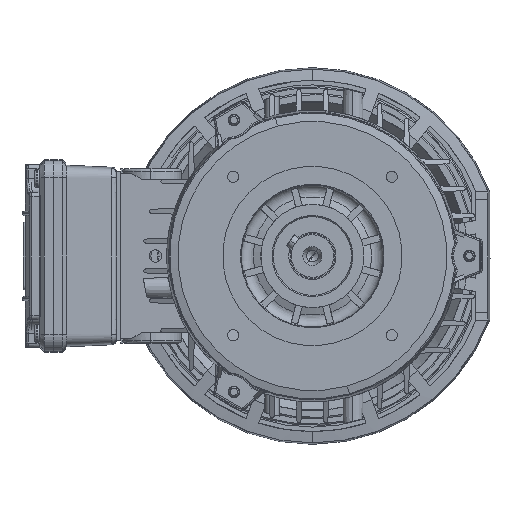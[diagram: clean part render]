
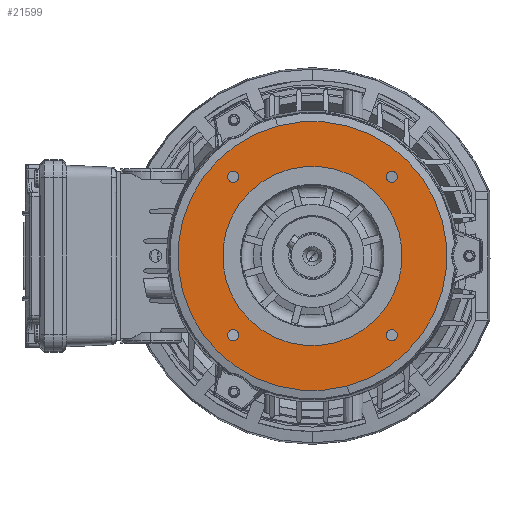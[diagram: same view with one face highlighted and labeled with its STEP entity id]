
A CAD part, left-side view. The second image highlights one B-rep face of the part: STEP entity #21599.
In plain terms, the highlighted planar face has unit normal (-1, 0, 0) as drawn and (0, 1, 0) by its records, which use the part's own axes.
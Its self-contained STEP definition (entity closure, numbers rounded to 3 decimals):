
#951 = DIRECTION ( 'NONE',  ( 0., -1., 0. ) ) ;
#3237 = CIRCLE ( 'NONE', #79228, 2.5 ) ;
#5181 = CIRCLE ( 'NONE', #51310, 40. ) ;
#5988 = AXIS2_PLACEMENT_3D ( 'NONE', #60271, #11836, #68462 ) ;
#7027 = CARTESIAN_POINT ( 'NONE',  ( 0., 34., 0. ) ) ;
#8027 = VERTEX_POINT ( 'NONE', #67371 ) ;
#8745 = ORIENTED_EDGE ( 'NONE', *, *, #31771, .T. ) ;
#9856 = AXIS2_PLACEMENT_3D ( 'NONE', #72267, #23756, #80424 ) ;
#9871 = CARTESIAN_POINT ( 'NONE',  ( -25., 34., -40.801 ) ) ;
#11296 = DIRECTION ( 'NONE',  ( 0., -1., 0. ) ) ;
#11836 = DIRECTION ( 'NONE',  ( 0., -1., 0. ) ) ;
#12226 = VERTEX_POINT ( 'NONE', #57283 ) ;
#12563 = ORIENTED_EDGE ( 'NONE', *, *, #40247, .T. ) ;
#15186 = DIRECTION ( 'NONE',  ( -1., 0., 0. ) ) ;
#17701 = EDGE_LOOP ( 'NONE', ( #92571, #98114 ) ) ;
#17825 = VERTEX_POINT ( 'NONE', #19185 ) ;
#18049 = CIRCLE ( 'NONE', #34796, 2.5 ) ;
#18078 = VERTEX_POINT ( 'NONE', #23376 ) ;
#18820 = DIRECTION ( 'NONE',  ( 1., 0., 0. ) ) ;
#19185 = CARTESIAN_POINT ( 'NONE',  ( 43.301, 34., -22.5 ) ) ;
#19575 = CARTESIAN_POINT ( 'NONE',  ( 40., 34., 0. ) ) ;
#21599 = ADVANCED_FACE ( 'NONE', ( #85286, #104357, #42145, #87839, #82732, #61077 ), #42871, .F. ) ;
#21682 = EDGE_LOOP ( 'NONE', ( #32616, #69791 ) ) ;
#22743 = EDGE_CURVE ( 'NONE', #12226, #74651, #63447, .T. ) ;
#23376 = CARTESIAN_POINT ( 'NONE',  ( 43.301, 34., -27.5 ) ) ;
#23756 = DIRECTION ( 'NONE',  ( 0., -1., 0. ) ) ;
#24249 = AXIS2_PLACEMENT_3D ( 'NONE', #49441, #951, #57533 ) ;
#25854 = DIRECTION ( 'NONE',  ( 0., -1., 0. ) ) ;
#26216 = DIRECTION ( 'NONE',  ( 0., 1., 0. ) ) ;
#28149 = DIRECTION ( 'NONE',  ( 0., 1., 0. ) ) ;
#29290 = EDGE_CURVE ( 'NONE', #8027, #50804, #39067, .T. ) ;
#29515 = DIRECTION ( 'NONE',  ( 0., 1., 0. ) ) ;
#31649 = AXIS2_PLACEMENT_3D ( 'NONE', #34596, #91295, #42683 ) ;
#31771 = EDGE_CURVE ( 'NONE', #74651, #12226, #37462, .T. ) ;
#32616 = ORIENTED_EDGE ( 'NONE', *, *, #29290, .T. ) ;
#34204 = EDGE_CURVE ( 'NONE', #54419, #85797, #58468, .T. ) ;
#34596 = CARTESIAN_POINT ( 'NONE',  ( -25., 34., -43.301 ) ) ;
#34796 = AXIS2_PLACEMENT_3D ( 'NONE', #37875, #94576, #45964 ) ;
#36628 = DIRECTION ( 'NONE',  ( 0., -1., 0. ) ) ;
#37462 = CIRCLE ( 'NONE', #45999, 2.5 ) ;
#37875 = CARTESIAN_POINT ( 'NONE',  ( -43.301, 34., 25. ) ) ;
#38099 = EDGE_CURVE ( 'NONE', #54616, #86313, #102395, .T. ) ;
#39067 = CIRCLE ( 'NONE', #31649, 2.5 ) ;
#40247 = EDGE_CURVE ( 'NONE', #18078, #17825, #3237, .T. ) ;
#40765 = EDGE_LOOP ( 'NONE', ( #8745, #86012 ) ) ;
#42145 = FACE_BOUND ( 'NONE', #92632, .T. ) ;
#42683 = DIRECTION ( 'NONE',  ( 1., 0., 0. ) ) ;
#42871 = PLANE ( 'NONE',  #57403 ) ;
#45964 = DIRECTION ( 'NONE',  ( 1., 0., 0. ) ) ;
#45999 = AXIS2_PLACEMENT_3D ( 'NONE', #85139, #36628, #93323 ) ;
#47851 = EDGE_CURVE ( 'NONE', #17825, #18078, #61160, .T. ) ;
#49441 = CARTESIAN_POINT ( 'NONE',  ( -25., 34., -43.301 ) ) ;
#49559 = AXIS2_PLACEMENT_3D ( 'NONE', #74695, #26216, #82879 ) ;
#50061 = CIRCLE ( 'NONE', #93472, 60. ) ;
#50163 = EDGE_LOOP ( 'NONE', ( #74077, #98461 ) ) ;
#50422 = ORIENTED_EDGE ( 'NONE', *, *, #34204, .F. ) ;
#50804 = VERTEX_POINT ( 'NONE', #9871 ) ;
#51310 = AXIS2_PLACEMENT_3D ( 'NONE', #7027, #63623, #15186 ) ;
#54419 = VERTEX_POINT ( 'NONE', #19575 ) ;
#54616 = VERTEX_POINT ( 'NONE', #66700 ) ;
#54703 = CIRCLE ( 'NONE', #24249, 2.5 ) ;
#55224 = EDGE_CURVE ( 'NONE', #89770, #62423, #79786, .T. ) ;
#57283 = CARTESIAN_POINT ( 'NONE',  ( 25., 34., 45.801 ) ) ;
#57403 = AXIS2_PLACEMENT_3D ( 'NONE', #75108, #67269, #18820 ) ;
#57533 = DIRECTION ( 'NONE',  ( 1., 0., 0. ) ) ;
#58394 = EDGE_CURVE ( 'NONE', #62423, #89770, #50061, .T. ) ;
#58468 = CIRCLE ( 'NONE', #49559, 40. ) ;
#59733 = CARTESIAN_POINT ( 'NONE',  ( 43.301, 34., -25. ) ) ;
#60271 = CARTESIAN_POINT ( 'NONE',  ( 25., 34., 43.301 ) ) ;
#61077 = FACE_OUTER_BOUND ( 'NONE', #50163, .T. ) ;
#61160 = CIRCLE ( 'NONE', #9856, 2.5 ) ;
#62423 = VERTEX_POINT ( 'NONE', #96377 ) ;
#63447 = CIRCLE ( 'NONE', #5988, 2.5 ) ;
#63623 = DIRECTION ( 'NONE',  ( 0., 1., 0. ) ) ;
#66700 = CARTESIAN_POINT ( 'NONE',  ( -43.301, 34., 22.5 ) ) ;
#66949 = CARTESIAN_POINT ( 'NONE',  ( -40., 34., 0. ) ) ;
#67269 = DIRECTION ( 'NONE',  ( 0., -1., 0. ) ) ;
#67371 = CARTESIAN_POINT ( 'NONE',  ( -25., 34., -45.801 ) ) ;
#67919 = DIRECTION ( 'NONE',  ( 1., 0., 0. ) ) ;
#68123 = AXIS2_PLACEMENT_3D ( 'NONE', #74334, #25854, #82523 ) ;
#68258 = EDGE_CURVE ( 'NONE', #85797, #54419, #5181, .T. ) ;
#68462 = DIRECTION ( 'NONE',  ( 1., 0., 0. ) ) ;
#68702 = AXIS2_PLACEMENT_3D ( 'NONE', #77992, #29515, #86152 ) ;
#69791 = ORIENTED_EDGE ( 'NONE', *, *, #90983, .T. ) ;
#71029 = ORIENTED_EDGE ( 'NONE', *, *, #68258, .F. ) ;
#72267 = CARTESIAN_POINT ( 'NONE',  ( 43.301, 34., -25. ) ) ;
#73432 = EDGE_CURVE ( 'NONE', #86313, #54616, #18049, .T. ) ;
#74077 = ORIENTED_EDGE ( 'NONE', *, *, #58394, .T. ) ;
#74334 = CARTESIAN_POINT ( 'NONE',  ( -43.301, 34., 25. ) ) ;
#74651 = VERTEX_POINT ( 'NONE', #77906 ) ;
#74695 = CARTESIAN_POINT ( 'NONE',  ( 0., 34., 0. ) ) ;
#75108 = CARTESIAN_POINT ( 'NONE',  ( 60., 34., 0. ) ) ;
#76610 = CARTESIAN_POINT ( 'NONE',  ( 0., 34., 0. ) ) ;
#77906 = CARTESIAN_POINT ( 'NONE',  ( 25., 34., 40.801 ) ) ;
#77992 = CARTESIAN_POINT ( 'NONE',  ( 0., 34., 0. ) ) ;
#79228 = AXIS2_PLACEMENT_3D ( 'NONE', #59733, #11296, #67919 ) ;
#79551 = ORIENTED_EDGE ( 'NONE', *, *, #47851, .T. ) ;
#79786 = CIRCLE ( 'NONE', #68702, 60. ) ;
#80424 = DIRECTION ( 'NONE',  ( 1., 0., 0. ) ) ;
#82523 = DIRECTION ( 'NONE',  ( 1., 0., 0. ) ) ;
#82732 = FACE_BOUND ( 'NONE', #87395, .T. ) ;
#82879 = DIRECTION ( 'NONE',  ( -1., 0., 0. ) ) ;
#84817 = DIRECTION ( 'NONE',  ( -1., 0., 0. ) ) ;
#85139 = CARTESIAN_POINT ( 'NONE',  ( 25., 34., 43.301 ) ) ;
#85286 = FACE_BOUND ( 'NONE', #17701, .T. ) ;
#85797 = VERTEX_POINT ( 'NONE', #66949 ) ;
#86012 = ORIENTED_EDGE ( 'NONE', *, *, #22743, .T. ) ;
#86152 = DIRECTION ( 'NONE',  ( -1., 0., 0. ) ) ;
#86313 = VERTEX_POINT ( 'NONE', #98956 ) ;
#87395 = EDGE_LOOP ( 'NONE', ( #71029, #50422 ) ) ;
#87839 = FACE_BOUND ( 'NONE', #21682, .T. ) ;
#89770 = VERTEX_POINT ( 'NONE', #95433 ) ;
#90983 = EDGE_CURVE ( 'NONE', #50804, #8027, #54703, .T. ) ;
#91295 = DIRECTION ( 'NONE',  ( 0., -1., 0. ) ) ;
#92571 = ORIENTED_EDGE ( 'NONE', *, *, #38099, .T. ) ;
#92632 = EDGE_LOOP ( 'NONE', ( #12563, #79551 ) ) ;
#93323 = DIRECTION ( 'NONE',  ( 1., 0., 0. ) ) ;
#93472 = AXIS2_PLACEMENT_3D ( 'NONE', #76610, #28149, #84817 ) ;
#94576 = DIRECTION ( 'NONE',  ( 0., -1., 0. ) ) ;
#95433 = CARTESIAN_POINT ( 'NONE',  ( 60., 34., 0. ) ) ;
#96377 = CARTESIAN_POINT ( 'NONE',  ( -60., 34., 0. ) ) ;
#98114 = ORIENTED_EDGE ( 'NONE', *, *, #73432, .T. ) ;
#98461 = ORIENTED_EDGE ( 'NONE', *, *, #55224, .T. ) ;
#98956 = CARTESIAN_POINT ( 'NONE',  ( -43.301, 34., 27.5 ) ) ;
#102395 = CIRCLE ( 'NONE', #68123, 2.5 ) ;
#104357 = FACE_BOUND ( 'NONE', #40765, .T. ) ;
